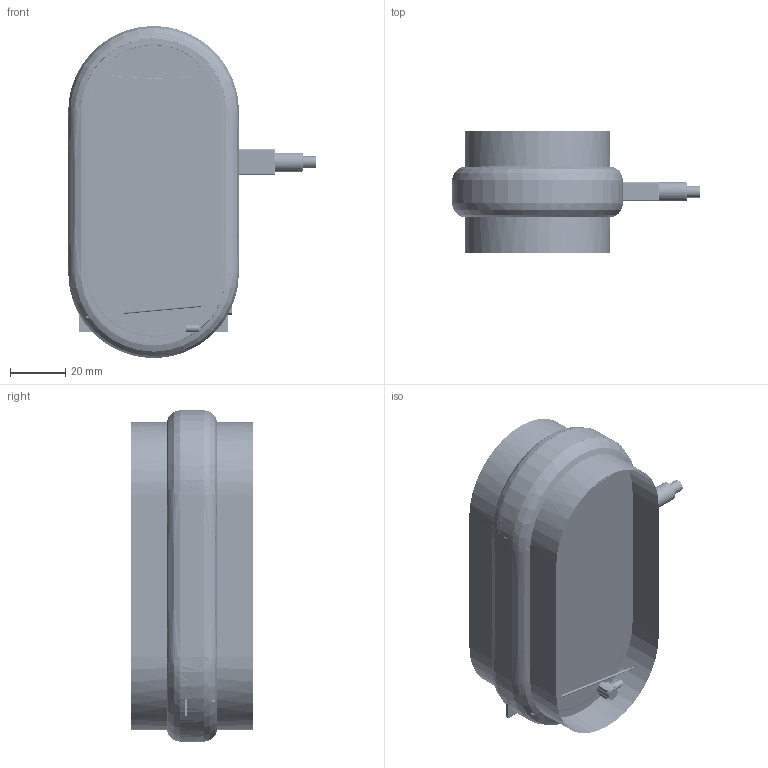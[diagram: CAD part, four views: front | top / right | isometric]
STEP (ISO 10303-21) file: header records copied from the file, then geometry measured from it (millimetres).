
FILE_DESCRIPTION((''),'2;1');
FILE_NAME('GTA02-MME01_ASM','2008-06-30T',('GRA'),(''),'PRO/ENGINEER BY PARAMETRIC TECHNOLOGY CORPORATION, 2006170','PRO/ENGINEER BY PARAMETRIC TECHNOLOGY CORPORATION, 2006170','');
FILE_SCHEMA(('CONFIG_CONTROL_DESIGN'));
Length unit declared in the file: millimetre
Products named in the file (105): CT0GPS-A-MPM1_PRT; LCM-28-SLIM-TOPPOLY_PRT; RTC-ML414R-F9A_PRT; SHIELDING-RF_PRT; BATTERY-1200MAH-WELLDONE_PRT; ANTENNA_PCB_COVER_ANY_PRT; _V_L_ANY_PRT; PATCH_DA15_ANY_PRT; GBSA-100A_ANY_ASM; _GBSA-100A_PRT; GBSA-100A_ASM; GPS-ANT-EXT-CONN_PRT; ANTENNA_PCB_ANY_PRT; GPS-ANTENNA-CIRO-15X15_ASM; CURV_PRT; ID-GTC-FRONT-PRE_PRT; ID-GTC-REAR-PRE_PRT; ID-GTC-MIDDLE-PRE_PRT; ID-GTC-STACKING_PRT; ID-GTC-LENS-PRE_PRT; ID-GTC-SPEAKER-DECO_PRT; ID-GTC-SD-COV_PRT; ID-GTC-USB-COV_PRT; BLACK_PRT; ID-GTC-FRONT-RING_PRT; ID-GTC-REAR-RING_PRT; ID-GTC-GPS-PRELIMINARY_ASM; MIC-D4-SMD-AAC_PRT; FPC-39P-HRS_PRT; RECEIVER-8X2-PHILIPS_PRT; SW-TACT_PRT; SPEAKER-16D-PSS_PRT; _2IN1_HINGE_ASM_PRT; SIM-MICROSD-ACON_ASM; VIBRATOR_2113TOP0_PRT; BATT-CONN-OCTEK-03JAX_PRT; PLUG-MINI-USB_PRT; GPS-ANT-EXT-MMCX-PLUG_PRT; GPS-ANT-EXT-PLUG-S_PRT; GPS-ANT-EXT-25109_PRT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
Assembly tree (123 placements, depth 7):
  GTA02-MME01_ASM
    GTA02-MSK1_ASM
      CT0GPS-A-MPM1_PRT
      LCM-28-SLIM-TOPPOLY_PRT
      RTC-ML414R-F9A_PRT
      SHIELDING-RF_PRT
      BATTERY-1200MAH-WELLDONE_PRT
      GPS-ANTENNA-CIRO-15X15_ASM
        GBSA-100A_ASM
          GBSA-100A_ANY_ASM
            ANTENNA_PCB_COVER_ANY_PRT
            _V_L_ANY_PRT
            PATCH_DA15_ANY_PRT
          _GBSA-100A_PRT
        GPS-ANT-EXT-CONN_PRT
        ANTENNA_PCB_ANY_PRT
      CURV_PRT
      ID-GTC-GPS-PRELIMINARY_ASM
        ID-GTC-FRONT-PRE_PRT
        ID-GTC-REAR-PRE_PRT
        ID-GTC-MIDDLE-PRE_PRT
        ID-GTC-STACKING_PRT
        ID-GTC-LENS-PRE_PRT
        ID-GTC-SPEAKER-DECO_PRT
        ID-GTC-SD-COV_PRT
        ID-GTC-USB-COV_PRT
        BLACK_PRT
        ID-GTC-FRONT-RING_PRT
        ID-GTC-REAR-RING_PRT
      MIC-D4-SMD-AAC_PRT
      FPC-39P-HRS_PRT  x2
      RECEIVER-8X2-PHILIPS_PRT
      SW-TACT_PRT  x2
      SPEAKER-16D-PSS_PRT  x2
      SIM-MICROSD-ACON_ASM
        _2IN1_HINGE_ASM_PRT
      VIBRATOR_2113TOP0_PRT
      BATT-CONN-OCTEK-03JAX_PRT
      PLUG-MINI-USB_PRT
      GPS-ANT-EXT-MMCX-PLUG_PRT
      GPS-ANT-EXT-PLUG-S_PRT
      GPS-ANT-EXT-25109_PRT
      GSM-ANT-BOTTOM_PRT
      PHONEJACK-TG286D_PRT
      MINIUSM-2UBMB01-SINGATRON-A_PRT
      GPS-ANT-CONN_PRT
      SPEAKER-AAC_PRT  x2
      GTC01-A-MCS01-RF_ASM
        GTC01-A-MCS01-RF-FRAME_PRT
        GTC01-A-MCS02-RF-COVER_PRT
      MM8430-2600B_PRT
      POGO-SPEAKER-NUCONN-P06_ASM  x2
        P06_ASM
          BTC-024_ANY_ASM
            POGO_PIN__W___ANY_ASM  x2
              PAD__W___ANY_PRT
              SPRING__W___ANY_PRT
              SOLDER__W___ANY_PRT
              PIN__W___ANY_PRT
            HOUSING__W___ANY_PRT
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Bounding box: 89.95 x 44.3 x 120.7 mm (x, y, z)
Volume: 186354.7 mm3; surface area: 433671.2 mm2
Topology: 192 solids, 348 shells, 20203 faces, 56053 edges, 36443 vertices
Faces by surface type: plane 13907, cylinder 4038, bspline 952, cone 434, torus 333, sphere 330, extrusion 204, revolution 5
Entity records: 707004 total; most frequent: CARTESIAN_POINT 235848, ORIENTED_EDGE 100918, DIRECTION 90172, EDGE_CURVE 51423, VECTOR 37701, LINE 37497, VERTEX_POINT 33747, AXIS2_PLACEMENT_3D 26233
